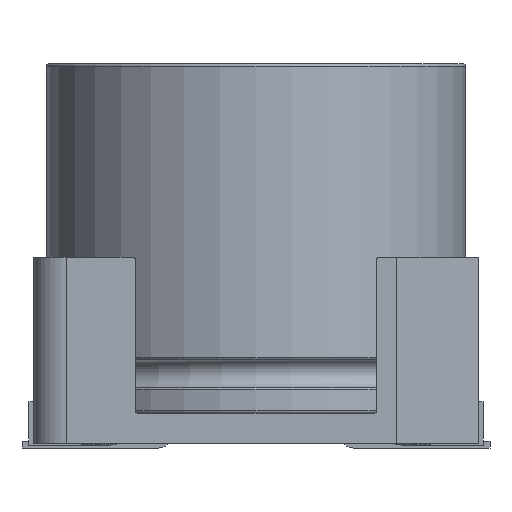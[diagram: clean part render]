
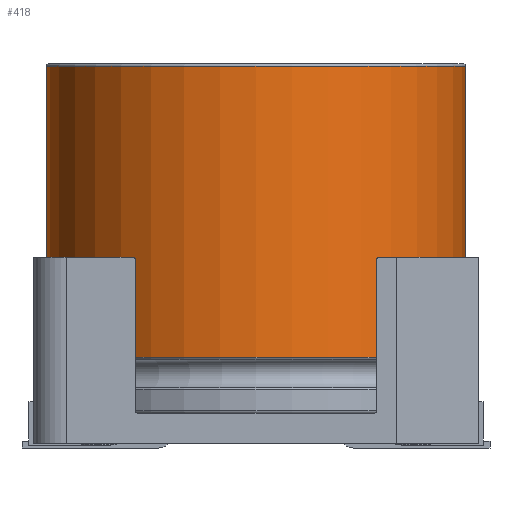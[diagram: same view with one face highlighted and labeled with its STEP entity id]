
A CAD part, front view. The second image highlights one B-rep face of the part: STEP entity #418.
In plain terms, the highlighted cylindrical face has radius 9 mm (diameter 18 mm), a full revolution.
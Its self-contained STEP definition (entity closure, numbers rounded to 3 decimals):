
#144=CYLINDRICAL_SURFACE('',#3396,9.);
#418=ADVANCED_FACE('',(#1357,#1358),#144,.T.);
#1357=FACE_BOUND('',#1441,.T.);
#1358=FACE_BOUND('',#1442,.T.);
#1441=EDGE_LOOP('',(#1883));
#1442=EDGE_LOOP('',(#1884));
#1883=ORIENTED_EDGE('',*,*,#2929,.T.);
#1884=ORIENTED_EDGE('',*,*,#2930,.T.);
#2587=VERTEX_POINT('',#4968);
#2588=VERTEX_POINT('',#4970);
#2929=EDGE_CURVE('',#2587,#2587,#3239,.T.);
#2930=EDGE_CURVE('',#2588,#2588,#3240,.T.);
#3239=CIRCLE('',#3394,9.);
#3240=CIRCLE('',#3395,9.);
#3394=AXIS2_PLACEMENT_3D('',#4967,#3894,#3895);
#3395=AXIS2_PLACEMENT_3D('',#4969,#3896,#3897);
#3396=AXIS2_PLACEMENT_3D('',#4971,#3898,#3899);
#3894=DIRECTION('',(0.,0.,1.));
#3895=DIRECTION('',(1.,0.,0.));
#3896=DIRECTION('',(0.,0.,-1.));
#3897=DIRECTION('',(-1.,0.,0.));
#3898=DIRECTION('',(0.,0.,-1.));
#3899=DIRECTION('',(-1.,0.,0.));
#4967=CARTESIAN_POINT('',(0.,0.,3.7));
#4968=CARTESIAN_POINT('',(9.,0.,3.7));
#4969=CARTESIAN_POINT('',(0.,0.,16.2));
#4970=CARTESIAN_POINT('',(-9.,0.,16.2));
#4971=CARTESIAN_POINT('',(0.,0.,0.));
